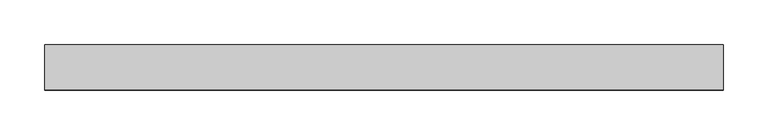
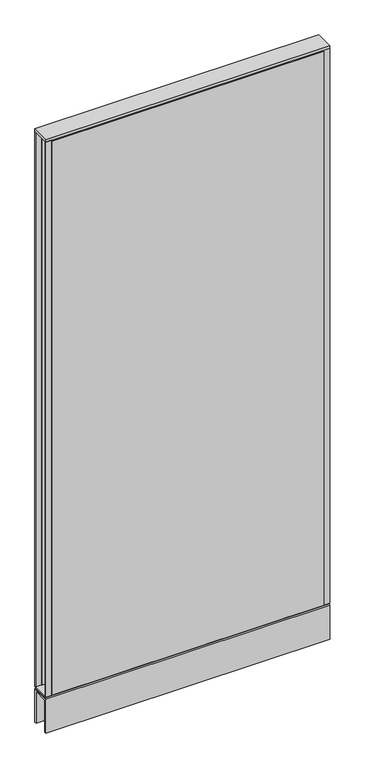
"""IFC4 building model written with IfcOpenShell, lengths in millimetres: furniture geometry, Steelcase - Kick Solutions - Panel - Monolithic - Tackable Acoustical : 66H x 30W."""

from ifc_helpers import new_model, si_unit, frame, origin, place, context, project, spatial, polyline, outline, extrude, source, transform, mapped, element, save


def furniture_895ce51e(model_context):
    return source(origin(), model_context, "Body", "SweptSolid", [
        extrude(outline(polyline([(0.0, 101.7169049), (-3.1750015, 101.7169049), (-3.1750015, 1676.5169018), (0.0, 1673.4357466), (0.0, 101.7169049)])), frame((15.8749996, 0.0, 0.0), z_axis=(1.0, 0.0, 0.0), x_axis=(0.0, 1.0, 0.0)), (0.0, 0.0, 1.0), 730.2500008),
        extrude(outline(polyline([(-50.8000015, 101.7169049), (-50.8000015, 1673.4357466), (-47.625, 1676.5169018), (-47.625, 101.7169049), (-50.8000015, 101.7169049)])), frame((15.8749996, 0.0, 0.0), z_axis=(1.0, 0.0, 0.0), x_axis=(0.0, 1.0, 0.0)), (0.0, 0.0, 1.0), 730.2500008),
        extrude(outline(polyline([(762.0, -3.1750015), (746.1250004, -3.1750015), (746.1250004, 0.0), (762.0, 0.0), (762.0, -3.1750015)])), frame((0.0, 0.0, 101.7169049), z_axis=(0.0, 0.0, 1.0), x_axis=(1.0, 0.0, 0.0)), (0.0, 0.0, 1.0), 1574.799997),
        extrude(outline(polyline([(15.8749996, -50.8000015), (0.0, -50.8000015), (0.0, -47.625), (15.8749996, -47.625), (15.8749996, -50.8000015)])), frame((0.0, 0.0, 101.7169049), z_axis=(0.0, 0.0, 1.0), x_axis=(1.0, 0.0, 0.0)), (0.0, 0.0, 1.0), 1574.799997),
        extrude(outline(polyline([(-50.7995075, 101.7169049), (-0.000494, 101.7169049), (-3.0583512, 98.5421458), (-47.7416503, 98.5421458), (-50.7995075, 101.7169049)])), frame((0.0, 0.0, 0.0), z_axis=(1.0, 0.0, 0.0), x_axis=(0.0, 1.0, 0.0)), (0.0, 0.0, 1.0), 762.0),
        extrude(outline(polyline([(762.0, 0.0), (762.0, -50.8000015), (0.0, -50.8000015), (0.0, 0.0), (762.0, 0.0)])), frame((0.0, 0.0, 1676.5169018), z_axis=(0.0, 0.0, 1.0), x_axis=(1.0, 0.0, 0.0)), (0.0, 0.0, 1.0), 6.35),
        extrude(outline(polyline([(15.8749996, -3.1750015), (0.0, -3.1750015), (0.0, 0.0), (15.8749996, 0.0), (15.8749996, -3.1750015)])), frame((0.0, 0.0, 101.7169049), z_axis=(0.0, 0.0, 1.0), x_axis=(1.0, 0.0, 0.0)), (0.0, 0.0, 1.0), 1574.799997),
        extrude(outline(polyline([(762.0, -50.8000015), (746.1250004, -50.8000015), (746.1250004, -47.625), (762.0, -47.625), (762.0, -50.8000015)])), frame((0.0, 0.0, 101.7169049), z_axis=(0.0, 0.0, 1.0), x_axis=(1.0, 0.0, 0.0)), (0.0, 0.0, 1.0), 1574.799997),
        extrude(outline(polyline([(-50.8000015, 95.3668927), (-47.6247484, 98.5421458), (-3.1752531, 98.5421458), (0.0, 95.3668927), (-50.8000015, 95.3668927)])), frame((0.0, 0.0, 0.0), z_axis=(1.0, 0.0, 0.0), x_axis=(0.0, 1.0, 0.0)), (0.0, 0.0, 1.0), 762.0),
        extrude(outline(polyline([(0.0, 0.0), (-5.08, 0.0), (-5.08, 90.2869018), (-45.7200015, 90.2869018), (-45.7200015, 0.0), (-50.8000015, 0.0), (-50.8000015, 95.3669018), (0.0, 95.3669018), (0.0, 0.0)])), frame((0.0, 0.0, 0.0), z_axis=(1.0, 0.0, 0.0), x_axis=(0.0, 1.0, 0.0)), (0.0, 0.0, 1.0), 762.0),
    ])


if __name__ == "__main__":
    model = new_model("IFC4")
    model_context = context("Model", 3, world=origin())
    ifc_project = project(units=[si_unit("LENGTHUNIT", "METRE", prefix="MILLI")], contexts=[model_context])
    site = spatial("IfcSite", under=ifc_project)
    building = spatial("IfcBuilding", under=site)
    placement = place(None, origin())
    furniture_shape = furniture_895ce51e(model_context)
    element("IfcFurniture", 1, ObjectType="Steelcase - Kick Solutions - Panel - Monolithic - Tackable Acoustical : 66H x 30W", at=placement, inside=building, context=model_context, shape_type="MappedRepresentation", body=[
        mapped(furniture_shape, transform((0.0, 0.0, 0.0), x_axis=(1.0, 0.0, 0.0), y_axis=(0.0, 1.0, 0.0), z_axis=(0.0, 0.0, 1.0))),
    ])
    save(model, "model.ifc")
